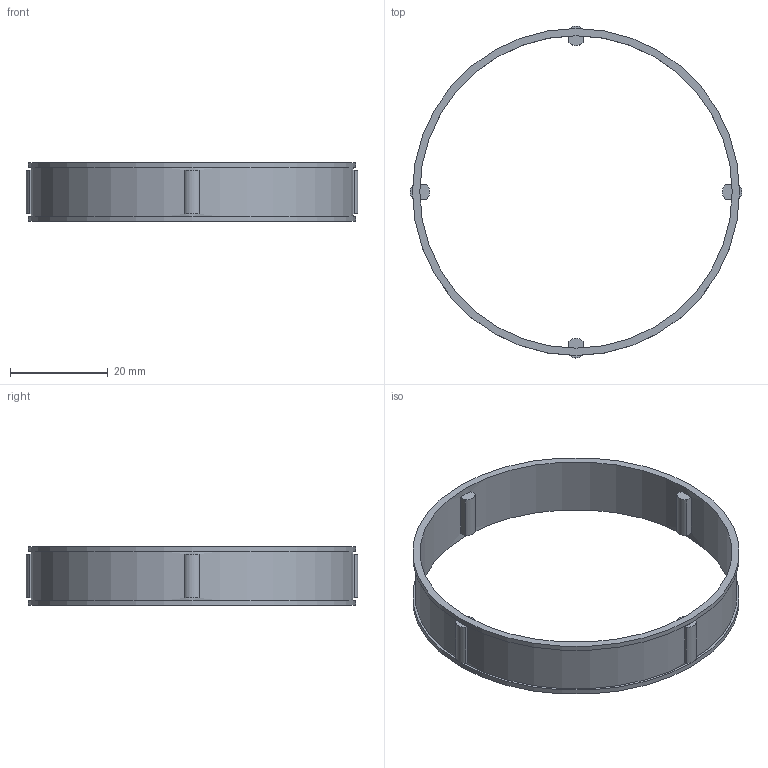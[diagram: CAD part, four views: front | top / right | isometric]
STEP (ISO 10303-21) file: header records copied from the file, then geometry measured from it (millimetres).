
FILE_DESCRIPTION(/* description */ (''),/* implementation_level */ '2;1');
FILE_NAME(/* name */ '300501 FE 468 Z.stp',/* time_stamp */ '2016-11-03T10:40:32+01:00',/* author */ (''),/* organization */ (''),/* preprocessor_version */ 'ST-DEVELOPER v15',/* originating_system */ 'SIEMENS PLM Software NX 8.5',/* authorisation */ '');
FILE_SCHEMA (('CONFIG_CONTROL_DESIGN'));
Length unit declared in the file: millimetre
Products named in the file (1): ATE0000080_01
Bounding box: 68 x 68 x 12 mm (x, y, z)
Volume: 2934.9 mm3; surface area: 5943.8 mm2
Topology: 1 solids, 1 shells, 48 faces, 114 edges, 76 vertices
Faces by surface type: plane 36, cylinder 12
Full cylindrical faces by diameter (mm): 64 x1, 66 x1, 67 x2
Entity records: 1420 total; most frequent: DIRECTION 242, CARTESIAN_POINT 225, ORIENTED_EDGE 208, EDGE_CURVE 104, AXIS2_PLACEMENT_3D 89, VERTEX_POINT 72, LINE 64, VECTOR 64
